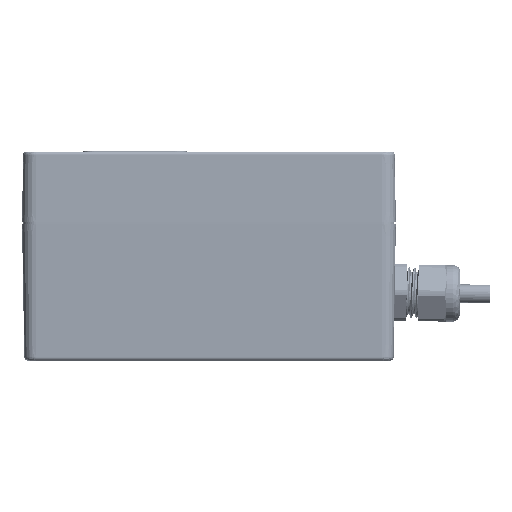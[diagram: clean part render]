
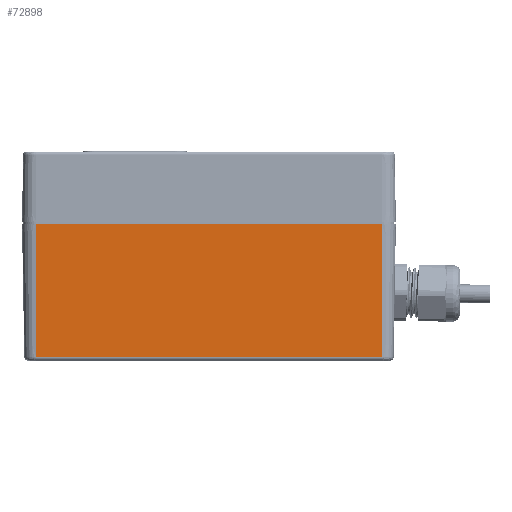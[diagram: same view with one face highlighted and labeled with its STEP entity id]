
A CAD part, left-side view. The second image highlights one B-rep face of the part: STEP entity #72898.
In plain terms, the highlighted planar face has unit normal (-1, 0, -0.017) as drawn and (0, -0.017, 1) by its records, which use the part's own axes.
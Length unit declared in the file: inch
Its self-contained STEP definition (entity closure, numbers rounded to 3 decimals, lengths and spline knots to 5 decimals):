
#315 = VERTEX_POINT ( 'NONE', #2094 ) ;
#2094 = CARTESIAN_POINT ( 'NONE',  ( 2.907, -2.23958, 3.10638 ) ) ;
#11602 = CARTESIAN_POINT ( 'NONE',  ( 0., 0., 3.145 ) ) ;
#12672 = VERTEX_POINT ( 'NONE', #19455 ) ;
#13981 = EDGE_CURVE ( 'NONE', #315, #12672, #44785, .T. ) ;
#14070 = CARTESIAN_POINT ( 'NONE',  ( -2.907, 0., 3.145 ) ) ;
#19437 = VECTOR ( 'NONE', #142889, 39.37008 ) ;
#19455 = CARTESIAN_POINT ( 'NONE',  ( -2.907, -2.23958, 3.10638 ) ) ;
#20699 = FACE_OUTER_BOUND ( 'NONE', #56381, .T. ) ;
#25099 = LINE ( 'NONE', #14070, #19437 ) ;
#26512 = VECTOR ( 'NONE', #52280, 39.37008 ) ;
#44785 = LINE ( 'NONE', #80369, #104263 ) ;
#48622 = PLANE ( 'NONE',  #151737 ) ;
#52280 = DIRECTION ( 'NONE',  ( -1., 0., 0. ) ) ;
#56381 = EDGE_LOOP ( 'NONE', ( #120720, #86643, #97863, #144825 ) ) ;
#56639 = DIRECTION ( 'NONE',  ( -1., 0., 0. ) ) ;
#58854 = CARTESIAN_POINT ( 'NONE',  ( 0., 0., 3.145 ) ) ;
#61220 = CARTESIAN_POINT ( 'NONE',  ( 2.907, 0., 3.145 ) ) ;
#61614 = LINE ( 'NONE', #11602, #26512 ) ;
#62909 = EDGE_CURVE ( 'NONE', #110673, #79870, #61614, .T. ) ;
#71280 = VECTOR ( 'NONE', #102299, 39.37008 ) ;
#72898 = ADVANCED_FACE ( 'NONE', ( #20699 ), #48622, .T. ) ;
#74002 = DIRECTION ( 'NONE',  ( 0., -1., -0.017 ) ) ;
#79870 = VERTEX_POINT ( 'NONE', #92346 ) ;
#80369 = CARTESIAN_POINT ( 'NONE',  ( 0., -2.23958, 3.10638 ) ) ;
#86643 = ORIENTED_EDGE ( 'NONE', *, *, #62909, .T. ) ;
#92346 = CARTESIAN_POINT ( 'NONE',  ( -2.907, 0., 3.145 ) ) ;
#97863 = ORIENTED_EDGE ( 'NONE', *, *, #125183, .T. ) ;
#102299 = DIRECTION ( 'NONE',  ( 0., 1., 0.017 ) ) ;
#104263 = VECTOR ( 'NONE', #56639, 39.37008 ) ;
#108709 = EDGE_CURVE ( 'NONE', #315, #110673, #126817, .T. ) ;
#110673 = VERTEX_POINT ( 'NONE', #61220 ) ;
#112212 = DIRECTION ( 'NONE',  ( 0., -0.017, 1. ) ) ;
#120720 = ORIENTED_EDGE ( 'NONE', *, *, #108709, .T. ) ;
#125183 = EDGE_CURVE ( 'NONE', #79870, #12672, #25099, .T. ) ;
#126817 = LINE ( 'NONE', #153935, #71280 ) ;
#142889 = DIRECTION ( 'NONE',  ( 0., -1., -0.017 ) ) ;
#144825 = ORIENTED_EDGE ( 'NONE', *, *, #13981, .F. ) ;
#151737 = AXIS2_PLACEMENT_3D ( 'NONE', #58854, #112212, #74002 ) ;
#153935 = CARTESIAN_POINT ( 'NONE',  ( 2.907, 0., 3.145 ) ) ;
